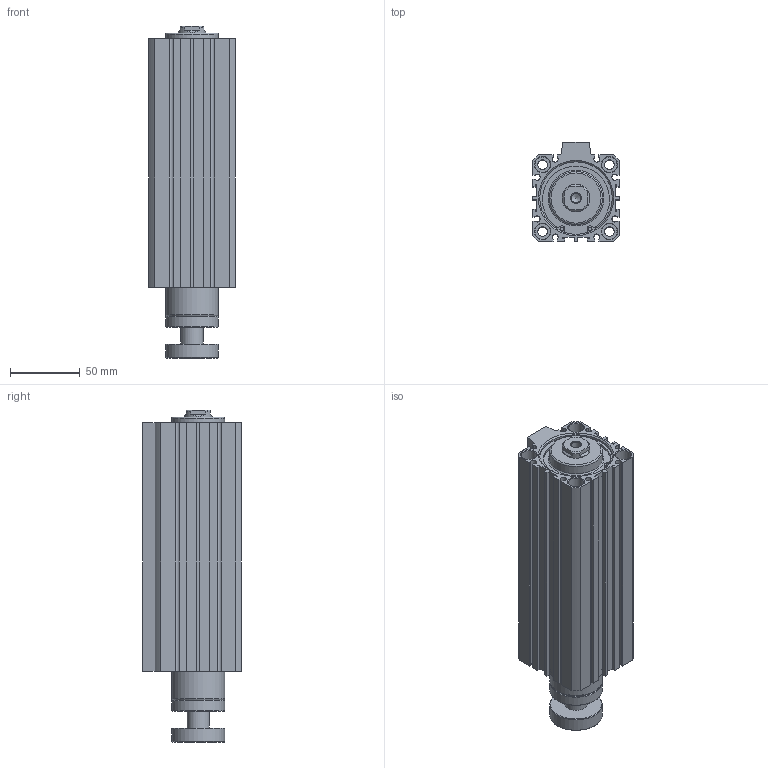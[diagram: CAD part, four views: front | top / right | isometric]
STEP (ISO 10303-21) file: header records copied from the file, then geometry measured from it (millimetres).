
FILE_DESCRIPTION((''),'2;1');
FILE_NAME('I:\3D電子目錄\氣缸\JDAR\JDAR\JDAR50\JDAR50x150.stp','2007-03-14T11:06:45',('662F206'),(''),'Autodesk Inventor 11','Autodesk Inventor 11','');
FILE_SCHEMA(('AUTOMOTIVE_DESIGN { 1 0 10303 214 1 1 1 1 }'));
Length unit declared in the file: millimetre
Products named in the file (3): JDAR50; R 形環 52
Assembly tree (3 placements, depth 2):
  JDAR50
    JDAR50
    R 形環 52  x2
Bounding box: 62 x 71 x 238.3 mm (x, y, z)
Volume: 673504.5 mm3; surface area: 108627.5 mm2
Topology: 3 solids, 3 shells, 193 faces, 472 edges, 309 vertices
Faces by surface type: plane 110, cylinder 54, cone 23, bspline 4, torus 2
Full cylindrical faces by diameter (mm): 2.3 x4, 2.7 x2, 6.8 x4, 11 x8, 16 x1, 20 x1, 38 x4, 52 x4, 55 x2
Entity records: 5195 total; most frequent: CARTESIAN_POINT 989, DIRECTION 870, ORIENTED_EDGE 764, EDGE_CURVE 382, AXIS2_PLACEMENT_3D 313, VERTEX_POINT 282, EDGE_LOOP 270, VECTOR 244
